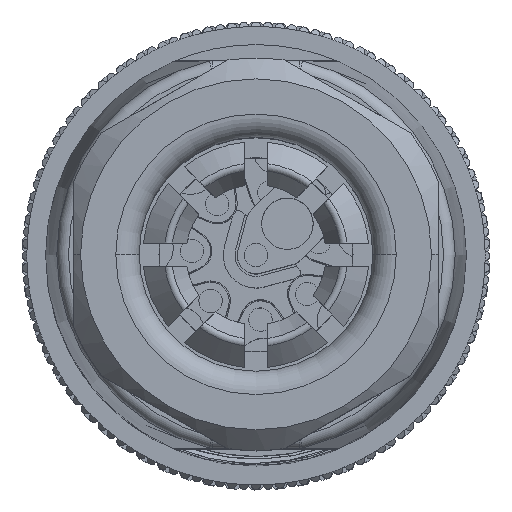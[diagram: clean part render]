
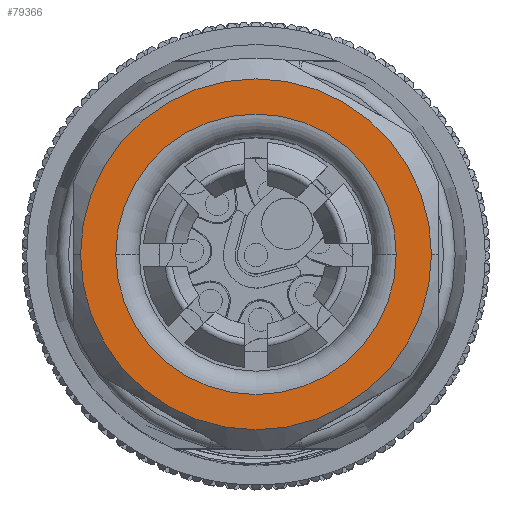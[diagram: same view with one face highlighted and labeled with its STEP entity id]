
A CAD part, top view. The second image highlights one B-rep face of the part: STEP entity #79366.
In plain terms, the highlighted planar face has unit normal (0, 0, 1).
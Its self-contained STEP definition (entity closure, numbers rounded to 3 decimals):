
#35393=CARTESIAN_POINT('',(0.,0.,38.5));
#35394=DIRECTION('',(0.,0.,-1.));
#35395=DIRECTION('',(-1.,0.,0.));
#35396=AXIS2_PLACEMENT_3D('',#35393,#35394,#35395);
#35398=CARTESIAN_POINT('',(0.,0.,38.5));
#35399=DIRECTION('',(0.,0.,-1.));
#35400=DIRECTION('',(1.,0.,0.));
#35401=AXIS2_PLACEMENT_3D('',#35398,#35399,#35400);
#35403=CARTESIAN_POINT('',(0.,0.,38.5));
#35404=DIRECTION('',(0.,0.,1.));
#35405=DIRECTION('',(1.,0.,0.));
#35406=AXIS2_PLACEMENT_3D('',#35403,#35404,#35405);
#35408=CARTESIAN_POINT('',(0.,0.,38.5));
#35409=DIRECTION('',(0.,0.,1.));
#35410=DIRECTION('',(-1.,0.,0.));
#35411=AXIS2_PLACEMENT_3D('',#35408,#35409,#35410);
#42762=CARTESIAN_POINT('',(-6.,0.,38.5));
#42763=CARTESIAN_POINT('',(6.,0.,38.5));
#42764=VERTEX_POINT('',#42762);
#42765=VERTEX_POINT('',#42763);
#42766=CARTESIAN_POINT('',(-7.507,0.,38.5));
#42768=VERTEX_POINT('',#42766);
#42770=CARTESIAN_POINT('',(7.507,0.,38.5));
#42772=VERTEX_POINT('',#42770);
#79350=CARTESIAN_POINT('',(0.,0.,38.5));
#79351=DIRECTION('',(0.,0.,-1.));
#79352=DIRECTION('',(-1.,0.,0.));
#79353=AXIS2_PLACEMENT_3D('',#79350,#79351,#79352);
#79354=PLANE('',#79353);
#79356=ORIENTED_EDGE('',*,*,#79355,.F.);
#79357=ORIENTED_EDGE('',*,*,#79329,.F.);
#79358=EDGE_LOOP('',(#79356,#79357));
#79359=FACE_OUTER_BOUND('',#79358,.F.);
#79361=ORIENTED_EDGE('',*,*,#79360,.F.);
#79363=ORIENTED_EDGE('',*,*,#79362,.F.);
#79364=EDGE_LOOP('',(#79361,#79363));
#79365=FACE_BOUND('',#79364,.F.);
#79366=ADVANCED_FACE('',(#79359,#79365),#79354,.F.);
#35397=CIRCLE('',#35396,6.);
#35402=CIRCLE('',#35401,6.);
#35407=CIRCLE('',#35406,7.507);
#35412=CIRCLE('',#35411,7.507);
#79329=EDGE_CURVE('',#42768,#42772,#35412,.T.);
#79355=EDGE_CURVE('',#42772,#42768,#35407,.T.);
#79360=EDGE_CURVE('',#42764,#42765,#35397,.T.);
#79362=EDGE_CURVE('',#42765,#42764,#35402,.T.);
